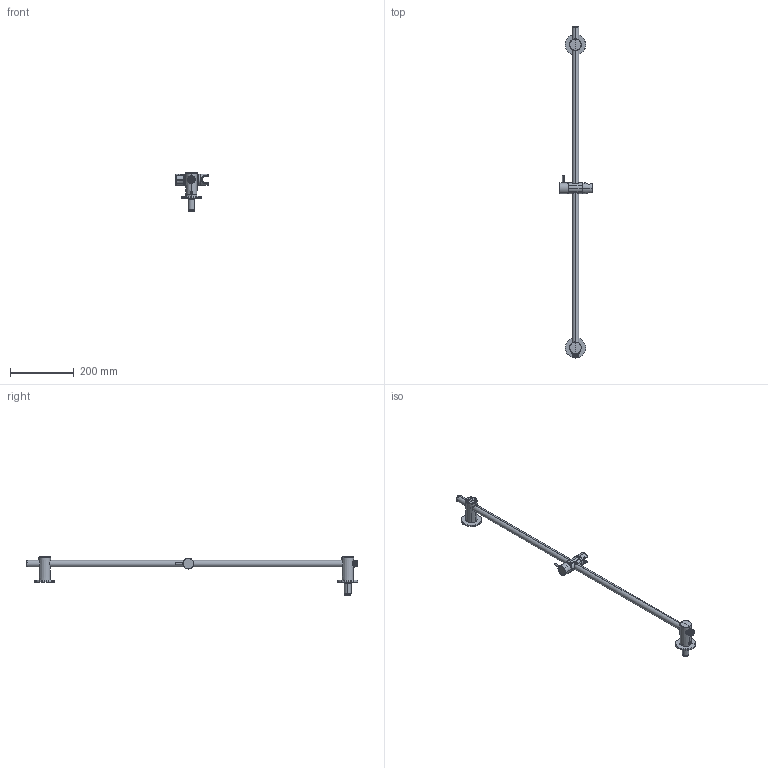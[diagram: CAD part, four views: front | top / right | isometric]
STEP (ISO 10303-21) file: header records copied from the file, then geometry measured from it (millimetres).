
FILE_DESCRIPTION((''),'2;1');
FILE_NAME('76685--00_ASM','2022-10-11T09:55:28',('sosm1'),(''),'CREO PARAMETRIC BY PTC INC, 2018190','CREO PARAMETRIC BY PTC INC, 2018190','');
FILE_SCHEMA(('CONFIG_CONTROL_DESIGN','SHAPE_APPEARANCE_LAYERS_GROUPS'));
Length unit declared in the file: millimetre
Products named in the file (41): 4420385; 4449100; 4420585; 4420385_SUB01_ASM; 44204--; 43059--; 4950500-1; 4950500-2; 4950500-3; 4950500-F; 4950500-02; 4950500-01; 4950100_ASM; 43059--_SUB01_ASM; 4441200; 6930900; 7921600; 44204--_SUB01_ASM; 44253--; 44254--; 44253--_SUB01_ASM; 76602_POS19; 76602_POS12; 76602_POS15; 76602_POS13; 76602_POS14; 76602_POS17; 76602_POS25; 76602_POS18; 76602_POS23; 76602_POS22; 76602_POS20; 76602_POS21; 76602_IGES_SUB05_ASM; 42322--_ASM; 44255--; 44256--; 44255--_SUB01_ASM; 44207--; 76685--00_SUB01_ASM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
Assembly tree (46 placements, depth 6):
  76685--00_ASM
    76685--00_SUB01_ASM
      4420385_SUB01_ASM
        4420385
        4449100
        4420585
      44204--_SUB01_ASM
        44204--
        43059--_SUB01_ASM
          43059--
          4449100
          4950100_ASM
            4950500-1
            4950500-2
            4950500-3
            4950500-F
            4950500-02
            4950500-01
        4441200  x2
        6930900
        7921600
      44253--_SUB01_ASM
        44253--
        44254--  x2
      42322--_ASM
        76602_IGES_SUB05_ASM
          76602_POS19
          76602_POS12
          76602_POS15
          76602_POS13
          76602_POS14
          76602_POS17  x2
          76602_POS25
          76602_POS18  x2
          76602_POS23
          76602_POS22
          76602_POS20
          76602_POS21
      44255--_SUB01_ASM
        44255--
        44256--
      44207--  x2
Bounding box: 102.14 x 1040.61 x 120.4 mm (x, y, z)
Volume: 195073.4 mm3; surface area: 257626.4 mm2
Topology: 37 solids, 37 shells, 1240 faces, 3164 edges, 2028 vertices
Faces by surface type: cylinder 444, plane 391, cone 170, torus 122, bspline 87, sphere 26
Entity records: 58346 total; most frequent: CARTESIAN_POINT 25435, ORIENTED_EDGE 5480, DIRECTION 5428, EDGE_CURVE 2740, AXIS2_PLACEMENT_3D 2217, PRESENTATION_STYLE_ASSIGNMENT 1846, STYLED_ITEM 1778, VERTEX_POINT 1772
